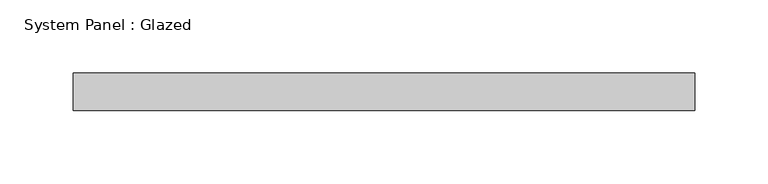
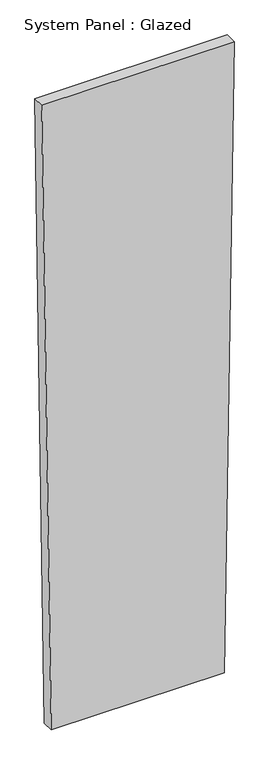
"""IFC4 building model written with IfcOpenShell, lengths in millimetres: plate geometry, System Panel : Glazed."""

from ifc_helpers import new_model, si_unit, frame, origin, place, context, project, spatial, polyline, outline, extrude, source, transform, mapped, element, save


def system_panel_glazed_8c73bb97(model_context):
    return source(origin(), model_context, "Body", "SweptSolid", [
        extrude(outline(polyline([(0.0, -190.6634556), (0.0, 190.6634556), (1460.3417351, 211.71108), (1460.3417351, -211.71108), (0.0, -190.6634556)])), frame((0.0, 19.05, 0.0), z_axis=(0.0, 1.0, 0.0), x_axis=(0.0, 0.0, 1.0)), (0.0, 0.0, 1.0), 25.4),
    ])


if __name__ == "__main__":
    model = new_model("IFC4")
    model_context = context("Model", 3, world=origin())
    ifc_project = project(units=[si_unit("LENGTHUNIT", "METRE", prefix="MILLI")], contexts=[model_context])
    site = spatial("IfcSite", under=ifc_project)
    building = spatial("IfcBuilding", under=site)
    placement = place(None, origin())
    system_panel_glazed_shape = system_panel_glazed_8c73bb97(model_context)
    element("IfcPlate", 1, ObjectType="System Panel : Glazed", at=placement, inside=building, context=model_context, shape_type="MappedRepresentation", body=[
        mapped(system_panel_glazed_shape, transform((0.0, 0.0, 0.0), x_axis=(1.0, 0.0, 0.0), y_axis=(0.0, 1.0, 0.0), z_axis=(0.0, 0.0, 1.0))),
    ])
    save(model, "model.ifc")
